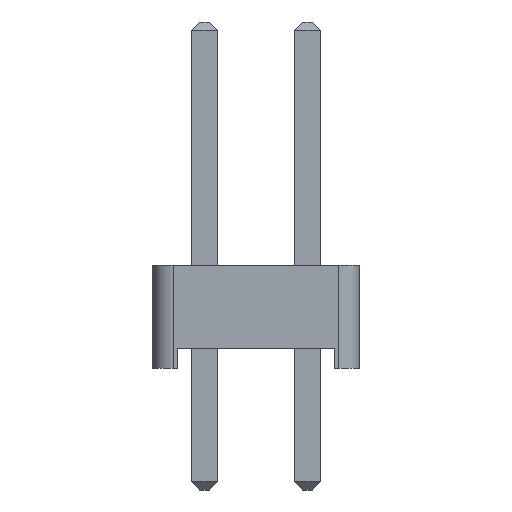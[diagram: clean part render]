
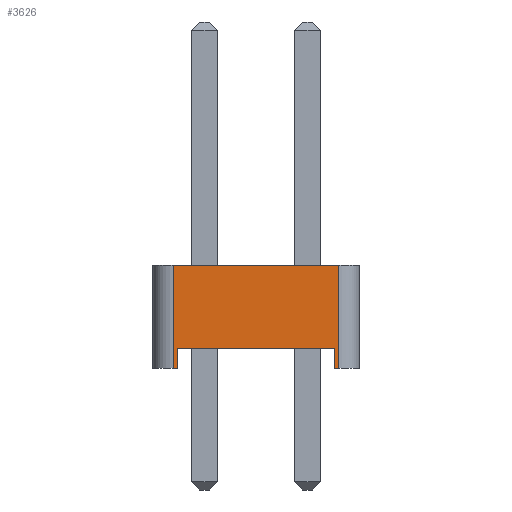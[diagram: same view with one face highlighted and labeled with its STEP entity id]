
A CAD part, left-side view. The second image highlights one B-rep face of the part: STEP entity #3626.
In plain terms, the highlighted planar face has unit normal (-1, 0, 0).
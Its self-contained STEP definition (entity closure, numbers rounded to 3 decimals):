
#3366 = VERTEX_POINT('',#3367);
#3367 = CARTESIAN_POINT('',(-1.27,2.04,0.));
#3375 = PLANE('',#3376);
#3376 = AXIS2_PLACEMENT_3D('',#3377,#3378,#3379);
#3377 = CARTESIAN_POINT('',(0.,0.,0.));
#3378 = DIRECTION('',(-0.,-0.,-1.));
#3379 = DIRECTION('',(-1.,0.,0.));
#3391 = CYLINDRICAL_SURFACE('',#3392,0.5);
#3392 = AXIS2_PLACEMENT_3D('',#3393,#3394,#3395);
#3393 = CARTESIAN_POINT('',(-0.77,2.04,0.));
#3394 = DIRECTION('',(0.,0.,1.));
#3395 = DIRECTION('',(0.,1.,0.));
#3493 = VERTEX_POINT('',#3494);
#3494 = CARTESIAN_POINT('',(-1.27,1.94,0.));
#3508 = PLANE('',#3509);
#3509 = AXIS2_PLACEMENT_3D('',#3510,#3511,#3512);
#3510 = CARTESIAN_POINT('',(1.27,1.94,0.));
#3511 = DIRECTION('',(0.,-1.,0.));
#3512 = DIRECTION('',(-1.,0.,0.));
#3520 = EDGE_CURVE('',#3493,#3366,#3521,.T.);
#3521 = SURFACE_CURVE('',#3522,(#3526,#3533),.PCURVE_S1.);
#3522 = LINE('',#3523,#3524);
#3523 = CARTESIAN_POINT('',(-1.27,-2.54,0.));
#3524 = VECTOR('',#3525,1.);
#3525 = DIRECTION('',(0.,1.,0.));
#3526 = PCURVE('',#3375,#3527);
#3527 = DEFINITIONAL_REPRESENTATION('',(#3528),#3532);
#3528 = LINE('',#3529,#3530);
#3529 = CARTESIAN_POINT('',(1.27,-2.54));
#3530 = VECTOR('',#3531,1.);
#3531 = DIRECTION('',(0.,1.));
#3532 = ( GEOMETRIC_REPRESENTATION_CONTEXT(2) 
PARAMETRIC_REPRESENTATION_CONTEXT() REPRESENTATION_CONTEXT('2D SPACE',''
  ) );
#3533 = PCURVE('',#3534,#3539);
#3534 = PLANE('',#3535);
#3535 = AXIS2_PLACEMENT_3D('',#3536,#3537,#3538);
#3536 = CARTESIAN_POINT('',(-1.27,-2.54,0.));
#3537 = DIRECTION('',(-1.,0.,0.));
#3538 = DIRECTION('',(0.,1.,0.));
#3539 = DEFINITIONAL_REPRESENTATION('',(#3540),#3544);
#3540 = LINE('',#3541,#3542);
#3541 = CARTESIAN_POINT('',(0.,0.));
#3542 = VECTOR('',#3543,1.);
#3543 = DIRECTION('',(1.,0.));
#3544 = ( GEOMETRIC_REPRESENTATION_CONTEXT(2) 
PARAMETRIC_REPRESENTATION_CONTEXT() REPRESENTATION_CONTEXT('2D SPACE',''
  ) );
#3550 = EDGE_CURVE('',#3366,#3551,#3553,.T.);
#3551 = VERTEX_POINT('',#3552);
#3552 = CARTESIAN_POINT('',(-1.27,2.04,2.54));
#3553 = SURFACE_CURVE('',#3554,(#3558,#3565),.PCURVE_S1.);
#3554 = LINE('',#3555,#3556);
#3555 = CARTESIAN_POINT('',(-1.27,2.04,0.));
#3556 = VECTOR('',#3557,1.);
#3557 = DIRECTION('',(0.,0.,1.));
#3558 = PCURVE('',#3391,#3559);
#3559 = DEFINITIONAL_REPRESENTATION('',(#3560),#3564);
#3560 = LINE('',#3561,#3562);
#3561 = CARTESIAN_POINT('',(1.571,0.));
#3562 = VECTOR('',#3563,1.);
#3563 = DIRECTION('',(0.,1.));
#3564 = ( GEOMETRIC_REPRESENTATION_CONTEXT(2) 
PARAMETRIC_REPRESENTATION_CONTEXT() REPRESENTATION_CONTEXT('2D SPACE',''
  ) );
#3565 = PCURVE('',#3534,#3566);
#3566 = DEFINITIONAL_REPRESENTATION('',(#3567),#3571);
#3567 = LINE('',#3568,#3569);
#3568 = CARTESIAN_POINT('',(4.58,0.));
#3569 = VECTOR('',#3570,1.);
#3570 = DIRECTION('',(0.,-1.));
#3571 = ( GEOMETRIC_REPRESENTATION_CONTEXT(2) 
PARAMETRIC_REPRESENTATION_CONTEXT() REPRESENTATION_CONTEXT('2D SPACE',''
  ) );
#3590 = PLANE('',#3591);
#3591 = AXIS2_PLACEMENT_3D('',#3592,#3593,#3594);
#3592 = CARTESIAN_POINT('',(0.,0.,2.54));
#3593 = DIRECTION('',(-0.,-0.,-1.));
#3594 = DIRECTION('',(-1.,0.,0.));
#3626 = ADVANCED_FACE('',(#3627),#3534,.T.);
#3627 = FACE_BOUND('',#3628,.T.);
#3628 = EDGE_LOOP('',(#3629,#3659,#3687,#3708,#3709,#3710,#3733,#3761));
#3629 = ORIENTED_EDGE('',*,*,#3630,.F.);
#3630 = EDGE_CURVE('',#3631,#3633,#3635,.T.);
#3631 = VERTEX_POINT('',#3632);
#3632 = CARTESIAN_POINT('',(-1.27,-2.04,0.));
#3633 = VERTEX_POINT('',#3634);
#3634 = CARTESIAN_POINT('',(-1.27,-1.94,0.));
#3635 = SURFACE_CURVE('',#3636,(#3640,#3647),.PCURVE_S1.);
#3636 = LINE('',#3637,#3638);
#3637 = CARTESIAN_POINT('',(-1.27,-2.54,0.));
#3638 = VECTOR('',#3639,1.);
#3639 = DIRECTION('',(0.,1.,0.));
#3640 = PCURVE('',#3534,#3641);
#3641 = DEFINITIONAL_REPRESENTATION('',(#3642),#3646);
#3642 = LINE('',#3643,#3644);
#3643 = CARTESIAN_POINT('',(0.,0.));
#3644 = VECTOR('',#3645,1.);
#3645 = DIRECTION('',(1.,0.));
#3646 = ( GEOMETRIC_REPRESENTATION_CONTEXT(2) 
PARAMETRIC_REPRESENTATION_CONTEXT() REPRESENTATION_CONTEXT('2D SPACE',''
  ) );
#3647 = PCURVE('',#3648,#3653);
#3648 = PLANE('',#3649);
#3649 = AXIS2_PLACEMENT_3D('',#3650,#3651,#3652);
#3650 = CARTESIAN_POINT('',(0.,0.,0.));
#3651 = DIRECTION('',(-0.,-0.,-1.));
#3652 = DIRECTION('',(-1.,0.,0.));
#3653 = DEFINITIONAL_REPRESENTATION('',(#3654),#3658);
#3654 = LINE('',#3655,#3656);
#3655 = CARTESIAN_POINT('',(1.27,-2.54));
#3656 = VECTOR('',#3657,1.);
#3657 = DIRECTION('',(0.,1.));
#3658 = ( GEOMETRIC_REPRESENTATION_CONTEXT(2) 
PARAMETRIC_REPRESENTATION_CONTEXT() REPRESENTATION_CONTEXT('2D SPACE',''
  ) );
#3659 = ORIENTED_EDGE('',*,*,#3660,.T.);
#3660 = EDGE_CURVE('',#3631,#3661,#3663,.T.);
#3661 = VERTEX_POINT('',#3662);
#3662 = CARTESIAN_POINT('',(-1.27,-2.04,2.54));
#3663 = SURFACE_CURVE('',#3664,(#3668,#3675),.PCURVE_S1.);
#3664 = LINE('',#3665,#3666);
#3665 = CARTESIAN_POINT('',(-1.27,-2.04,0.));
#3666 = VECTOR('',#3667,1.);
#3667 = DIRECTION('',(0.,0.,1.));
#3668 = PCURVE('',#3534,#3669);
#3669 = DEFINITIONAL_REPRESENTATION('',(#3670),#3674);
#3670 = LINE('',#3671,#3672);
#3671 = CARTESIAN_POINT('',(0.5,0.));
#3672 = VECTOR('',#3673,1.);
#3673 = DIRECTION('',(0.,-1.));
#3674 = ( GEOMETRIC_REPRESENTATION_CONTEXT(2) 
PARAMETRIC_REPRESENTATION_CONTEXT() REPRESENTATION_CONTEXT('2D SPACE',''
  ) );
#3675 = PCURVE('',#3676,#3681);
#3676 = CYLINDRICAL_SURFACE('',#3677,0.5);
#3677 = AXIS2_PLACEMENT_3D('',#3678,#3679,#3680);
#3678 = CARTESIAN_POINT('',(-0.77,-2.04,0.));
#3679 = DIRECTION('',(0.,0.,1.));
#3680 = DIRECTION('',(0.,-1.,0.));
#3681 = DEFINITIONAL_REPRESENTATION('',(#3682),#3686);
#3682 = LINE('',#3683,#3684);
#3683 = CARTESIAN_POINT('',(-1.571,0.));
#3684 = VECTOR('',#3685,1.);
#3685 = DIRECTION('',(-0.,1.));
#3686 = ( GEOMETRIC_REPRESENTATION_CONTEXT(2) 
PARAMETRIC_REPRESENTATION_CONTEXT() REPRESENTATION_CONTEXT('2D SPACE',''
  ) );
#3687 = ORIENTED_EDGE('',*,*,#3688,.T.);
#3688 = EDGE_CURVE('',#3661,#3551,#3689,.T.);
#3689 = SURFACE_CURVE('',#3690,(#3694,#3701),.PCURVE_S1.);
#3690 = LINE('',#3691,#3692);
#3691 = CARTESIAN_POINT('',(-1.27,-2.54,2.54));
#3692 = VECTOR('',#3693,1.);
#3693 = DIRECTION('',(0.,1.,0.));
#3694 = PCURVE('',#3534,#3695);
#3695 = DEFINITIONAL_REPRESENTATION('',(#3696),#3700);
#3696 = LINE('',#3697,#3698);
#3697 = CARTESIAN_POINT('',(0.,-2.54));
#3698 = VECTOR('',#3699,1.);
#3699 = DIRECTION('',(1.,0.));
#3700 = ( GEOMETRIC_REPRESENTATION_CONTEXT(2) 
PARAMETRIC_REPRESENTATION_CONTEXT() REPRESENTATION_CONTEXT('2D SPACE',''
  ) );
#3701 = PCURVE('',#3590,#3702);
#3702 = DEFINITIONAL_REPRESENTATION('',(#3703),#3707);
#3703 = LINE('',#3704,#3705);
#3704 = CARTESIAN_POINT('',(1.27,-2.54));
#3705 = VECTOR('',#3706,1.);
#3706 = DIRECTION('',(0.,1.));
#3707 = ( GEOMETRIC_REPRESENTATION_CONTEXT(2) 
PARAMETRIC_REPRESENTATION_CONTEXT() REPRESENTATION_CONTEXT('2D SPACE',''
  ) );
#3708 = ORIENTED_EDGE('',*,*,#3550,.F.);
#3709 = ORIENTED_EDGE('',*,*,#3520,.F.);
#3710 = ORIENTED_EDGE('',*,*,#3711,.T.);
#3711 = EDGE_CURVE('',#3493,#3712,#3714,.T.);
#3712 = VERTEX_POINT('',#3713);
#3713 = CARTESIAN_POINT('',(-1.27,1.94,0.5));
#3714 = SURFACE_CURVE('',#3715,(#3719,#3726),.PCURVE_S1.);
#3715 = LINE('',#3716,#3717);
#3716 = CARTESIAN_POINT('',(-1.27,1.94,0.));
#3717 = VECTOR('',#3718,1.);
#3718 = DIRECTION('',(0.,0.,1.));
#3719 = PCURVE('',#3534,#3720);
#3720 = DEFINITIONAL_REPRESENTATION('',(#3721),#3725);
#3721 = LINE('',#3722,#3723);
#3722 = CARTESIAN_POINT('',(4.48,0.));
#3723 = VECTOR('',#3724,1.);
#3724 = DIRECTION('',(0.,-1.));
#3725 = ( GEOMETRIC_REPRESENTATION_CONTEXT(2) 
PARAMETRIC_REPRESENTATION_CONTEXT() REPRESENTATION_CONTEXT('2D SPACE',''
  ) );
#3726 = PCURVE('',#3508,#3727);
#3727 = DEFINITIONAL_REPRESENTATION('',(#3728),#3732);
#3728 = LINE('',#3729,#3730);
#3729 = CARTESIAN_POINT('',(2.54,0.));
#3730 = VECTOR('',#3731,1.);
#3731 = DIRECTION('',(0.,-1.));
#3732 = ( GEOMETRIC_REPRESENTATION_CONTEXT(2) 
PARAMETRIC_REPRESENTATION_CONTEXT() REPRESENTATION_CONTEXT('2D SPACE',''
  ) );
#3733 = ORIENTED_EDGE('',*,*,#3734,.T.);
#3734 = EDGE_CURVE('',#3712,#3735,#3737,.T.);
#3735 = VERTEX_POINT('',#3736);
#3736 = CARTESIAN_POINT('',(-1.27,-1.94,0.5));
#3737 = SURFACE_CURVE('',#3738,(#3742,#3749),.PCURVE_S1.);
#3738 = LINE('',#3739,#3740);
#3739 = CARTESIAN_POINT('',(-1.27,1.94,0.5));
#3740 = VECTOR('',#3741,1.);
#3741 = DIRECTION('',(0.,-1.,0.));
#3742 = PCURVE('',#3534,#3743);
#3743 = DEFINITIONAL_REPRESENTATION('',(#3744),#3748);
#3744 = LINE('',#3745,#3746);
#3745 = CARTESIAN_POINT('',(4.48,-0.5));
#3746 = VECTOR('',#3747,1.);
#3747 = DIRECTION('',(-1.,0.));
#3748 = ( GEOMETRIC_REPRESENTATION_CONTEXT(2) 
PARAMETRIC_REPRESENTATION_CONTEXT() REPRESENTATION_CONTEXT('2D SPACE',''
  ) );
#3749 = PCURVE('',#3750,#3755);
#3750 = PLANE('',#3751);
#3751 = AXIS2_PLACEMENT_3D('',#3752,#3753,#3754);
#3752 = CARTESIAN_POINT('',(0.,0.,0.5));
#3753 = DIRECTION('',(0.,0.,1.));
#3754 = DIRECTION('',(1.,0.,0.));
#3755 = DEFINITIONAL_REPRESENTATION('',(#3756),#3760);
#3756 = LINE('',#3757,#3758);
#3757 = CARTESIAN_POINT('',(-1.27,1.94));
#3758 = VECTOR('',#3759,1.);
#3759 = DIRECTION('',(0.,-1.));
#3760 = ( GEOMETRIC_REPRESENTATION_CONTEXT(2) 
PARAMETRIC_REPRESENTATION_CONTEXT() REPRESENTATION_CONTEXT('2D SPACE',''
  ) );
#3761 = ORIENTED_EDGE('',*,*,#3762,.F.);
#3762 = EDGE_CURVE('',#3633,#3735,#3763,.T.);
#3763 = SURFACE_CURVE('',#3764,(#3768,#3775),.PCURVE_S1.);
#3764 = LINE('',#3765,#3766);
#3765 = CARTESIAN_POINT('',(-1.27,-1.94,0.));
#3766 = VECTOR('',#3767,1.);
#3767 = DIRECTION('',(0.,0.,1.));
#3768 = PCURVE('',#3534,#3769);
#3769 = DEFINITIONAL_REPRESENTATION('',(#3770),#3774);
#3770 = LINE('',#3771,#3772);
#3771 = CARTESIAN_POINT('',(0.6,0.));
#3772 = VECTOR('',#3773,1.);
#3773 = DIRECTION('',(0.,-1.));
#3774 = ( GEOMETRIC_REPRESENTATION_CONTEXT(2) 
PARAMETRIC_REPRESENTATION_CONTEXT() REPRESENTATION_CONTEXT('2D SPACE',''
  ) );
#3775 = PCURVE('',#3776,#3781);
#3776 = PLANE('',#3777);
#3777 = AXIS2_PLACEMENT_3D('',#3778,#3779,#3780);
#3778 = CARTESIAN_POINT('',(-1.27,-1.94,0.));
#3779 = DIRECTION('',(0.,1.,0.));
#3780 = DIRECTION('',(1.,0.,0.));
#3781 = DEFINITIONAL_REPRESENTATION('',(#3782),#3786);
#3782 = LINE('',#3783,#3784);
#3783 = CARTESIAN_POINT('',(0.,0.));
#3784 = VECTOR('',#3785,1.);
#3785 = DIRECTION('',(0.,-1.));
#3786 = ( GEOMETRIC_REPRESENTATION_CONTEXT(2) 
PARAMETRIC_REPRESENTATION_CONTEXT() REPRESENTATION_CONTEXT('2D SPACE',''
  ) );
